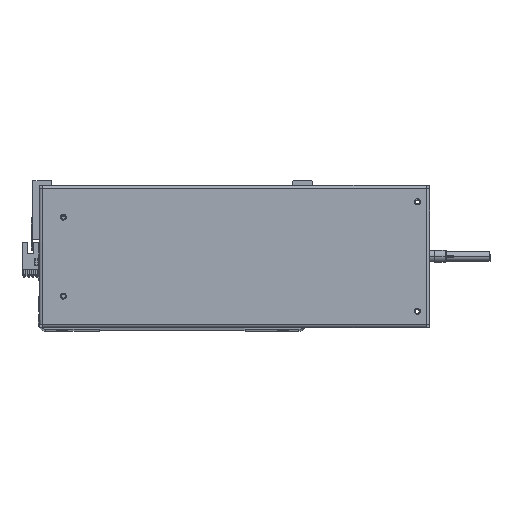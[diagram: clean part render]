
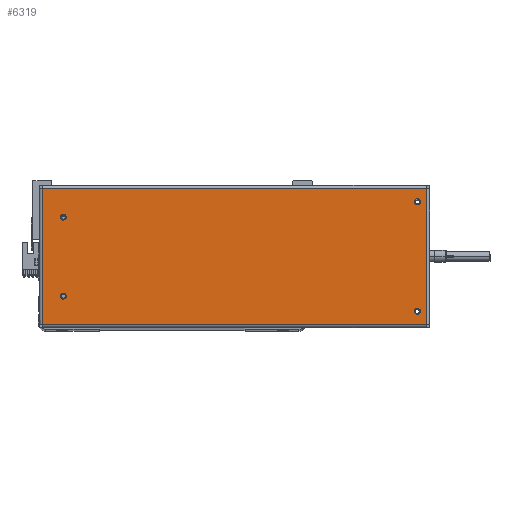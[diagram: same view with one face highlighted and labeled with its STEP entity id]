
A CAD part, top view. The second image highlights one B-rep face of the part: STEP entity #6319.
In plain terms, the highlighted planar face has unit normal (0, 0, 1).
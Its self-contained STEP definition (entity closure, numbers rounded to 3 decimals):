
#283 = ORIENTED_EDGE ( 'NONE', *, *, #26767, .T. ) ;
#640 = ORIENTED_EDGE ( 'NONE', *, *, #38482, .T. ) ;
#1220 = ORIENTED_EDGE ( 'NONE', *, *, #1341, .F. ) ;
#1341 = EDGE_CURVE ( 'NONE', #33761, #27197, #35707, .T. ) ;
#1984 = CARTESIAN_POINT ( 'NONE',  ( 157.7, 58.5, 0. ) ) ;
#2176 = CIRCLE ( 'NONE', #8384, 2.5 ) ;
#2391 = DIRECTION ( 'NONE',  ( 1., 0., 0. ) ) ;
#2652 = VERTEX_POINT ( 'NONE', #20672 ) ;
#2971 = VERTEX_POINT ( 'NONE', #34294 ) ;
#4080 = DIRECTION ( 'NONE',  ( -1., 0., 0. ) ) ;
#4166 = EDGE_LOOP ( 'NONE', ( #16783, #1220 ) ) ;
#4335 = FACE_BOUND ( 'NONE', #12996, .T. ) ;
#4338 = ORIENTED_EDGE ( 'NONE', *, *, #7422, .F. ) ;
#4561 = ORIENTED_EDGE ( 'NONE', *, *, #29202, .T. ) ;
#4915 = CIRCLE ( 'NONE', #39334, 2.5 ) ;
#5068 = CARTESIAN_POINT ( 'NONE',  ( 148., 45., 0. ) ) ;
#5452 = ORIENTED_EDGE ( 'NONE', *, *, #21811, .T. ) ;
#5481 = CARTESIAN_POINT ( 'NONE',  ( -157.6, -55.6, 0. ) ) ;
#6319 = ADVANCED_FACE ( 'NONE', ( #4335, #17443, #15527, #30518, #6816 ), #30121, .F. ) ;
#6816 = FACE_OUTER_BOUND ( 'NONE', #12459, .T. ) ;
#6864 = VECTOR ( 'NONE', #22309, 1000. ) ;
#7061 = CARTESIAN_POINT ( 'NONE',  ( 150.5, -45., 0. ) ) ;
#7394 = AXIS2_PLACEMENT_3D ( 'NONE', #1984, #32675, #11343 ) ;
#7422 = EDGE_CURVE ( 'NONE', #9892, #2652, #13184, .T. ) ;
#7504 = CARTESIAN_POINT ( 'NONE',  ( -143., 32.5, 0. ) ) ;
#7864 = CIRCLE ( 'NONE', #24048, 2.5 ) ;
#8384 = AXIS2_PLACEMENT_3D ( 'NONE', #15060, #18147, #23839 ) ;
#9503 = DIRECTION ( 'NONE',  ( 0., 0., 1. ) ) ;
#9892 = VERTEX_POINT ( 'NONE', #27075 ) ;
#9893 = CARTESIAN_POINT ( 'NONE',  ( 153., -45., 0. ) ) ;
#10723 = CARTESIAN_POINT ( 'NONE',  ( -140.5, 32.5, 0. ) ) ;
#11343 = DIRECTION ( 'NONE',  ( -1., 0., 0. ) ) ;
#11378 = CARTESIAN_POINT ( 'NONE',  ( -140.5, -32.5, 0. ) ) ;
#11546 = CIRCLE ( 'NONE', #20227, 2.5 ) ;
#12459 = EDGE_LOOP ( 'NONE', ( #4561, #5452, #283, #640 ) ) ;
#12996 = EDGE_LOOP ( 'NONE', ( #4338, #40094 ) ) ;
#13184 = CIRCLE ( 'NONE', #25017, 2.5 ) ;
#13885 = EDGE_CURVE ( 'NONE', #2652, #9892, #11546, .T. ) ;
#13937 = AXIS2_PLACEMENT_3D ( 'NONE', #39447, #20956, #2391 ) ;
#14474 = DIRECTION ( 'NONE',  ( 0., 0., 1. ) ) ;
#14660 = VERTEX_POINT ( 'NONE', #30657 ) ;
#15060 = CARTESIAN_POINT ( 'NONE',  ( 150.5, 45., 0. ) ) ;
#15527 = FACE_BOUND ( 'NONE', #17761, .T. ) ;
#16074 = LINE ( 'NONE', #31211, #6864 ) ;
#16085 = ORIENTED_EDGE ( 'NONE', *, *, #38800, .F. ) ;
#16783 = ORIENTED_EDGE ( 'NONE', *, *, #31265, .F. ) ;
#17443 = FACE_BOUND ( 'NONE', #4166, .T. ) ;
#17761 = EDGE_LOOP ( 'NONE', ( #34170, #23347 ) ) ;
#18147 = DIRECTION ( 'NONE',  ( 0., 0., 1. ) ) ;
#19446 = DIRECTION ( 'NONE',  ( 1., 0., 0. ) ) ;
#19730 = LINE ( 'NONE', #33398, #30384 ) ;
#20054 = CIRCLE ( 'NONE', #13937, 2.5 ) ;
#20227 = AXIS2_PLACEMENT_3D ( 'NONE', #11378, #14474, #32707 ) ;
#20672 = CARTESIAN_POINT ( 'NONE',  ( -143., -32.5, 0. ) ) ;
#20852 = DIRECTION ( 'NONE',  ( 0., -1., 0. ) ) ;
#20956 = DIRECTION ( 'NONE',  ( 0., 0., 1. ) ) ;
#21053 = VECTOR ( 'NONE', #20852, 1000. ) ;
#21104 = VECTOR ( 'NONE', #4080, 1000. ) ;
#21264 = EDGE_CURVE ( 'NONE', #2971, #35796, #4915, .T. ) ;
#21394 = EDGE_CURVE ( 'NONE', #28051, #27180, #7864, .T. ) ;
#21539 = CARTESIAN_POINT ( 'NONE',  ( 150.5, 45., 0. ) ) ;
#21811 = EDGE_CURVE ( 'NONE', #30319, #14660, #16074, .T. ) ;
#22309 = DIRECTION ( 'NONE',  ( 1., 0., 0. ) ) ;
#22832 = CARTESIAN_POINT ( 'NONE',  ( -140.5, -32.5, 0. ) ) ;
#23347 = ORIENTED_EDGE ( 'NONE', *, *, #39271, .F. ) ;
#23555 = DIRECTION ( 'NONE',  ( 0., 1., 0. ) ) ;
#23658 = CIRCLE ( 'NONE', #29165, 2.5 ) ;
#23839 = DIRECTION ( 'NONE',  ( 1., 0., 0. ) ) ;
#24048 = AXIS2_PLACEMENT_3D ( 'NONE', #7061, #28692, #25686 ) ;
#24412 = LINE ( 'NONE', #29897, #21053 ) ;
#24675 = CARTESIAN_POINT ( 'NONE',  ( -157.6, 55.6, 0. ) ) ;
#24895 = ORIENTED_EDGE ( 'NONE', *, *, #21264, .F. ) ;
#25017 = AXIS2_PLACEMENT_3D ( 'NONE', #22832, #25758, #19446 ) ;
#25225 = EDGE_LOOP ( 'NONE', ( #24895, #16085 ) ) ;
#25686 = DIRECTION ( 'NONE',  ( 1., 0., 0. ) ) ;
#25732 = DIRECTION ( 'NONE',  ( 0., 0., 1. ) ) ;
#25758 = DIRECTION ( 'NONE',  ( 0., 0., 1. ) ) ;
#25903 = LINE ( 'NONE', #38319, #21104 ) ;
#26182 = CARTESIAN_POINT ( 'NONE',  ( 148., -45., 0. ) ) ;
#26333 = AXIS2_PLACEMENT_3D ( 'NONE', #10723, #32338, #38554 ) ;
#26767 = EDGE_CURVE ( 'NONE', #14660, #30634, #19730, .T. ) ;
#27075 = CARTESIAN_POINT ( 'NONE',  ( -138., -32.5, 0. ) ) ;
#27180 = VERTEX_POINT ( 'NONE', #26182 ) ;
#27197 = VERTEX_POINT ( 'NONE', #32561 ) ;
#28051 = VERTEX_POINT ( 'NONE', #9893 ) ;
#28692 = DIRECTION ( 'NONE',  ( 0., 0., 1. ) ) ;
#28868 = CARTESIAN_POINT ( 'NONE',  ( -140.5, 32.5, 0. ) ) ;
#29165 = AXIS2_PLACEMENT_3D ( 'NONE', #28868, #25732, #38190 ) ;
#29202 = EDGE_CURVE ( 'NONE', #37314, #30319, #24412, .T. ) ;
#29897 = CARTESIAN_POINT ( 'NONE',  ( -157.6, 55.6, 0. ) ) ;
#30121 = PLANE ( 'NONE',  #7394 ) ;
#30319 = VERTEX_POINT ( 'NONE', #5481 ) ;
#30384 = VECTOR ( 'NONE', #23555, 1000. ) ;
#30518 = FACE_BOUND ( 'NONE', #25225, .T. ) ;
#30634 = VERTEX_POINT ( 'NONE', #32618 ) ;
#30657 = CARTESIAN_POINT ( 'NONE',  ( 157.6, -55.6, 0. ) ) ;
#31012 = DIRECTION ( 'NONE',  ( 1., 0., 0. ) ) ;
#31211 = CARTESIAN_POINT ( 'NONE',  ( -157.7, -55.6, 0. ) ) ;
#31265 = EDGE_CURVE ( 'NONE', #27197, #33761, #23658, .T. ) ;
#32338 = DIRECTION ( 'NONE',  ( 0., 0., 1. ) ) ;
#32561 = CARTESIAN_POINT ( 'NONE',  ( -138., 32.5, 0. ) ) ;
#32618 = CARTESIAN_POINT ( 'NONE',  ( 157.6, 55.6, 0. ) ) ;
#32675 = DIRECTION ( 'NONE',  ( 0., 0., -1. ) ) ;
#32707 = DIRECTION ( 'NONE',  ( 1., 0., 0. ) ) ;
#33398 = CARTESIAN_POINT ( 'NONE',  ( 157.6, -55.6, 0. ) ) ;
#33761 = VERTEX_POINT ( 'NONE', #7504 ) ;
#34170 = ORIENTED_EDGE ( 'NONE', *, *, #21394, .F. ) ;
#34294 = CARTESIAN_POINT ( 'NONE',  ( 153., 45., 0. ) ) ;
#35707 = CIRCLE ( 'NONE', #26333, 2.5 ) ;
#35796 = VERTEX_POINT ( 'NONE', #5068 ) ;
#37314 = VERTEX_POINT ( 'NONE', #24675 ) ;
#38190 = DIRECTION ( 'NONE',  ( 1., 0., 0. ) ) ;
#38319 = CARTESIAN_POINT ( 'NONE',  ( 157.7, 55.6, 0. ) ) ;
#38482 = EDGE_CURVE ( 'NONE', #30634, #37314, #25903, .T. ) ;
#38554 = DIRECTION ( 'NONE',  ( 1., 0., 0. ) ) ;
#38800 = EDGE_CURVE ( 'NONE', #35796, #2971, #2176, .T. ) ;
#39271 = EDGE_CURVE ( 'NONE', #27180, #28051, #20054, .T. ) ;
#39334 = AXIS2_PLACEMENT_3D ( 'NONE', #21539, #9503, #31012 ) ;
#39447 = CARTESIAN_POINT ( 'NONE',  ( 150.5, -45., 0. ) ) ;
#40094 = ORIENTED_EDGE ( 'NONE', *, *, #13885, .F. ) ;
